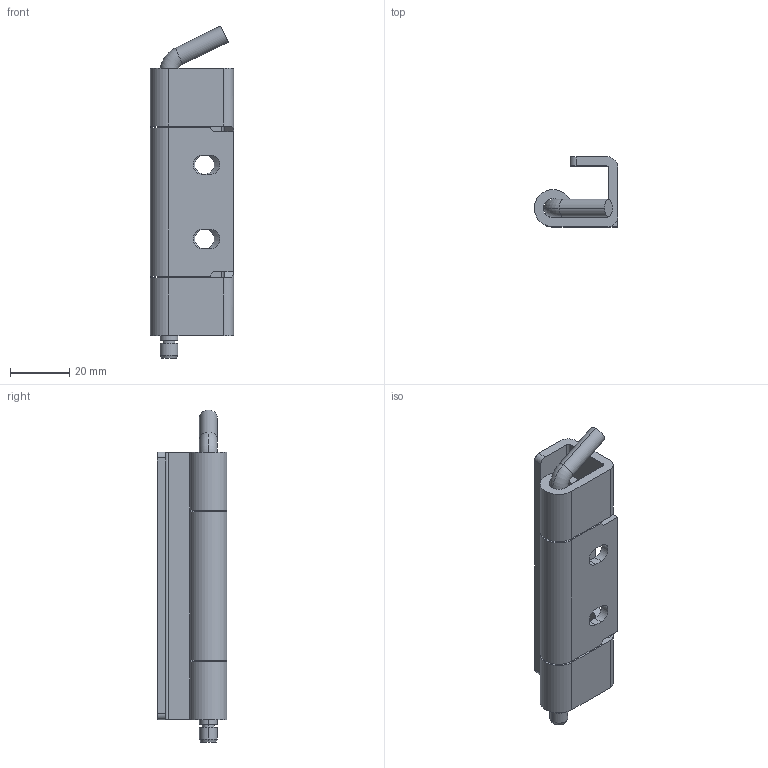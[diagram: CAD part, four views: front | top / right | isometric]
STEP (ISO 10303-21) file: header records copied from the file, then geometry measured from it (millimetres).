
FILE_DESCRIPTION (( 'STEP AP203' ), '1' );
FILE_NAME ('XG02-56-1.STEP', '2023-12-09T02:16:55', ( '' ), ( '' ), 'SwSTEP 2.0', 'SolidWorks 2020', '' );
FILE_SCHEMA (( 'CONFIG_CONTROL_DESIGN' ));
Length unit declared in the file: millimetre
Products named in the file (1): XG02-56-1
Bounding box: 28 x 23.5 x 111.64 mm (x, y, z)
Volume: 22464.2 mm3; surface area: 17323.1 mm2
Topology: 2 solids, 2 shells, 88 faces, 239 edges, 157 vertices
Faces by surface type: plane 48, cylinder 32, cone 6, torus 2
Entity records: 3066 total; most frequent: CARTESIAN_POINT 698, DIRECTION 484, ORIENTED_EDGE 478, EDGE_CURVE 239, AXIS2_PLACEMENT_3D 166, VERTEX_POINT 157, VECTOR 152, LINE 152
